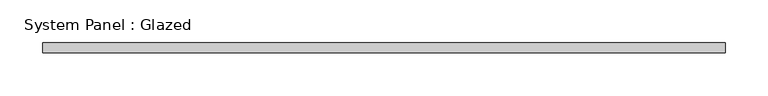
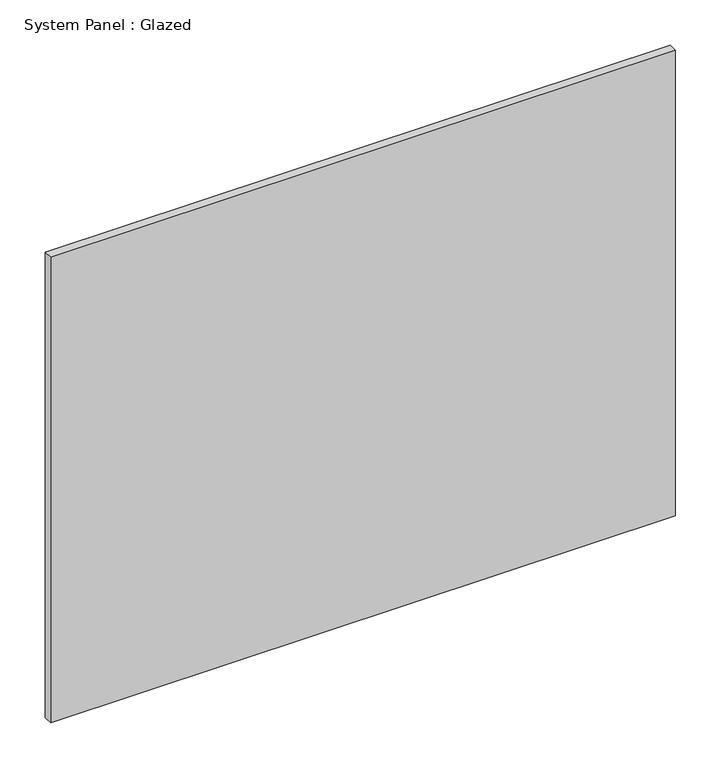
"""IFC4 building model written with IfcOpenShell, lengths in millimetres: plate geometry, System Panel : Glazed."""

import ifcopenshell
import ifcopenshell.guid

model = None  # the IFC model being written
_history = None  # IfcOwnerHistory: only IFC2X3 demands one
_inside = {}  # id of a spatial element -> (the spatial element, [elements in it])
_under = {}  # id of a project, library or spatial element -> (it, [spatial elements below it])
_declared = {}  # id of a project -> (the project, [libraries it declares])
_typed = {}  # id of a type object -> (the type object, [elements of that type])
_made_of = {}  # id of a material, layer set ... -> (it, [elements and type objects made of it])


def new_model(schema):
    """Start an empty IFC model of exactly this schema.

    Asked for "IFC4X3", IfcOpenShell would pick the latest addendum, in which some entities
    have other attributes; the version numbers below select the first issue.
    IFC2X3 requires an IfcOwnerHistory on every rooted entity: one is made here for all.
    """
    global model, _history
    if schema == "IFC4X3":
        model = ifcopenshell.file(schema_version=(4, 3, 0, 0))
    else:
        model = ifcopenshell.file(schema=schema)
    _inside.clear()
    _under.clear()
    _declared.clear()
    _typed.clear()
    _made_of.clear()
    _history = None
    if model.schema == "IFC2X3":
        org = make("IfcOrganization", Name="unknown")
        user = make(
            "IfcPersonAndOrganization",
            ThePerson=make("IfcPerson", FamilyName="unknown"),
            TheOrganization=org,
        )
        app = make(
            "IfcApplication",
            ApplicationDeveloper=org,
            Version="unknown",
            ApplicationFullName="unknown",
            ApplicationIdentifier="unknown",
        )
        _history = make(
            "IfcOwnerHistory",
            OwningUser=user,
            OwningApplication=app,
            ChangeAction="ADDED",
            CreationDate=0,
        )
    return model


def make(cls, **values):
    """One entity of the class cls with the attributes given. An attribute that is None is left unset."""
    return model.create_entity(
        cls, **{name: value for name, value in values.items() if value is not None}
    )


def rooted(cls, **values):
    """An entity with a GlobalId (a new one), such as an element, a storey or a relation."""
    return make(cls, GlobalId=ifcopenshell.guid.new(), OwnerHistory=_history, **values)


def si_unit(unit_type, name, prefix=None):
    """IfcSIUnit, for example si_unit("LENGTHUNIT", "METRE", prefix="MILLI")."""
    return make("IfcSIUnit", UnitType=unit_type, Prefix=prefix, Name=name)


def assignment(units):
    """IfcUnitAssignment: the units of a project."""
    return None if units is None else make("IfcUnitAssignment", Units=units)


def point(xyz):
    """IfcCartesianPoint."""
    return None if xyz is None else make("IfcCartesianPoint", Coordinates=xyz)


def direction(xyz):
    """IfcDirection."""
    return None if xyz is None else make("IfcDirection", DirectionRatios=xyz)


def frame(location, z_axis=None, x_axis=None):
    """IfcAxis2Placement3D, a coordinate frame: its origin and axes. An axis left out is left unset."""
    return make(
        "IfcAxis2Placement3D",
        Location=point(location),
        Axis=direction(z_axis),
        RefDirection=direction(x_axis),
    )


def origin():
    """The frame at (0, 0, 0) with its axes left unset."""
    return frame((0.0, 0.0, 0.0))


def origin_with_axes():
    """The frame at (0, 0, 0) with the z axis (0, 0, 1) and the x axis (1, 0, 0) written out."""
    return frame((0.0, 0.0, 0.0), z_axis=(0.0, 0.0, 1.0), x_axis=(1.0, 0.0, 0.0))


def place(relative_to, where):
    """IfcLocalPlacement: puts the frame where relative to a parent placement (None: the world)."""
    return make(
        "IfcLocalPlacement", PlacementRelTo=relative_to, RelativePlacement=where
    )


def context(
    kind, dimensions, precision=None, world=None, true_north=None, identifier=None
):
    """IfcGeometricRepresentationContext, for example the 3D "Model" context."""
    return make(
        "IfcGeometricRepresentationContext",
        ContextIdentifier=identifier,
        ContextType=kind,
        CoordinateSpaceDimension=dimensions,
        Precision=precision,
        WorldCoordinateSystem=world,
        TrueNorth=true_north,
    )


def project(units=None, contexts=None):
    """IfcProject with its units and contexts."""
    return rooted(
        "IfcProject",
        Name="project",
        RepresentationContexts=contexts,
        UnitsInContext=assignment(units),
    )


def spatial(cls, under=None, at=None, **own):
    """A site, building, storey or space (cls), placed at a placement, below another one or the project."""
    s = rooted(cls, ObjectPlacement=at, **own)
    if under is not None:
        _under.setdefault(under.id(), (under, []))[1].append(s)
    return s


def polyline(points):
    """IfcPolyline through the points."""
    return make("IfcPolyline", Points=[point(p) for p in points])


def outline(outer, holes=None, kind="AREA"):
    """IfcArbitraryClosedProfileDef: a profile drawn as a closed curve; with holes, ...WithVoids."""
    if holes is None:
        return make("IfcArbitraryClosedProfileDef", ProfileType=kind, OuterCurve=outer)
    return make(
        "IfcArbitraryProfileDefWithVoids",
        ProfileType=kind,
        OuterCurve=outer,
        InnerCurves=holes,
    )


def extrude(swept, where, along, depth):
    """IfcExtrudedAreaSolid: the profile swept, set in the frame where, extruded along a direction by depth."""
    return make(
        "IfcExtrudedAreaSolid",
        SweptArea=swept,
        Position=where,
        ExtrudedDirection=direction(along),
        Depth=depth,
    )


def shape(context_of_items, identifier, shape_type, items):
    """IfcShapeRepresentation: the items that make up one representation, for example the "Body"."""
    return make(
        "IfcShapeRepresentation",
        ContextOfItems=context_of_items,
        RepresentationIdentifier=identifier,
        RepresentationType=shape_type,
        Items=items,
    )


def source(mapping_origin, context_of_items, identifier, shape_type, items):
    """IfcRepresentationMap: a shape defined once, which mapped items show again and again."""
    return make(
        "IfcRepresentationMap",
        MappingOrigin=mapping_origin,
        MappedRepresentation=shape(context_of_items, identifier, shape_type, items),
    )


def transform(
    local_origin,
    x_axis=None,
    y_axis=None,
    z_axis=None,
    scale=None,
    scale2=None,
    scale3=None,
    uniform=True,
):
    """IfcCartesianTransformationOperator3D, or its non-uniform kind. x_axis, y_axis, z_axis: its Axis1, 2, 3."""
    if uniform:
        return make(
            "IfcCartesianTransformationOperator3D",
            Axis1=direction(x_axis),
            Axis2=direction(y_axis),
            LocalOrigin=point(local_origin),
            Scale=scale,
            Axis3=direction(z_axis),
        )
    return make(
        "IfcCartesianTransformationOperator3DnonUniform",
        Axis1=direction(x_axis),
        Axis2=direction(y_axis),
        LocalOrigin=point(local_origin),
        Scale=scale,
        Axis3=direction(z_axis),
        Scale2=scale2,
        Scale3=scale3,
    )


def mapped(mapping_source, mapping_target):
    """IfcMappedItem: shows the shape of a source again, moved by a transform."""
    return make(
        "IfcMappedItem", MappingSource=mapping_source, MappingTarget=mapping_target
    )


def made_of(thing, what):
    """Note that an element or type object is made of a material, layer set ...; save() writes the relation."""
    if what is not None:
        _made_of.setdefault(what.id(), (what, []))[1].append(thing)
    return thing


def element(
    cls,
    number,
    at=None,
    inside=None,
    cuts=None,
    type_object=None,
    material=None,
    context=None,
    identifier="Body",
    shape_type=None,
    held_by="IfcProductDefinitionShape",
    body=None,
    shapes=None,
    **own,
):
    """One element of the class cls, such as IfcWall. Its Tag is "e" and its number.

    at: its placement. inside: the storey or other place that contains it. cuts: it is an
    opening in that element (IfcRelVoidsElement). A single representation is given by context,
    identifier, shape_type and body (its items); several are given by shapes. held_by: the class
    of the entity that holds the representations. save() writes the other relations.
    """
    e = rooted(cls, Tag="e%d" % number, ObjectPlacement=at, **own)
    if body is not None:
        shapes = [shape(context, identifier, shape_type, body)]
    if shapes is not None:
        e.Representation = make(held_by, Representations=shapes)
    if inside is not None:
        _inside.setdefault(inside.id(), (inside, []))[1].append(e)
    if cuts is not None:
        rooted(
            "IfcRelVoidsElement", RelatingBuildingElement=cuts, RelatedOpeningElement=e
        )
    if type_object is not None:
        _typed.setdefault(type_object.id(), (type_object, []))[1].append(e)
    return made_of(e, material)


def aggregate(whole, parts):
    """IfcRelAggregates: a whole, such as a stair, and the parts it consists of."""
    return rooted("IfcRelAggregates", RelatingObject=whole, RelatedObjects=parts)


def save(model, path):
    """Write the relations noted so far, then the file.

    IfcRelAggregates (storeys below a building ...), IfcRelContainedInSpatialStructure (elements
    in a storey), IfcRelDefinesByType, IfcRelAssociatesMaterial and IfcRelDeclares: one each for
    every whole, place, type object, material and project.
    """
    for whole, parts in _under.values():
        aggregate(whole, parts)
    for where, things in _inside.values():
        rooted(
            "IfcRelContainedInSpatialStructure",
            RelatedElements=things,
            RelatingStructure=where,
        )
    for kind, things in _typed.values():
        rooted("IfcRelDefinesByType", RelatedObjects=things, RelatingType=kind)
    for what, things in _made_of.values():
        rooted("IfcRelAssociatesMaterial", RelatedObjects=things, RelatingMaterial=what)
    for by, libraries in _declared.values():
        rooted("IfcRelDeclares", RelatingContext=by, RelatedDefinitions=libraries)
    model.write(path)


def system_panel_glazed_cc563820(model_context):
    return source(origin(), model_context, "Body", "SweptSolid", [
        extrude(outline(polyline([(400.0, 4.0), (-400.0, 4.0), (-400.0, 16.0), (400.0, 16.0), (400.0, 4.0)])), origin_with_axes(), (0.0, 0.0, 1.0), 630.0),
    ])


if __name__ == "__main__":
    model = new_model("IFC4")
    model_context = context("Model", 3, world=origin())
    ifc_project = project(units=[si_unit("LENGTHUNIT", "METRE", prefix="MILLI")], contexts=[model_context])
    site = spatial("IfcSite", under=ifc_project)
    building = spatial("IfcBuilding", under=site)
    placement = place(None, origin())
    system_panel_glazed_shape = system_panel_glazed_cc563820(model_context)
    element("IfcPlate", 1, ObjectType="System Panel : Glazed", at=placement, inside=building, context=model_context, shape_type="MappedRepresentation", body=[
        mapped(system_panel_glazed_shape, transform((0.0, 0.0, 0.0), x_axis=(1.0, 0.0, 0.0), y_axis=(0.0, 1.0, 0.0), z_axis=(0.0, 0.0, 1.0))),
    ])
    save(model, "model.ifc")
